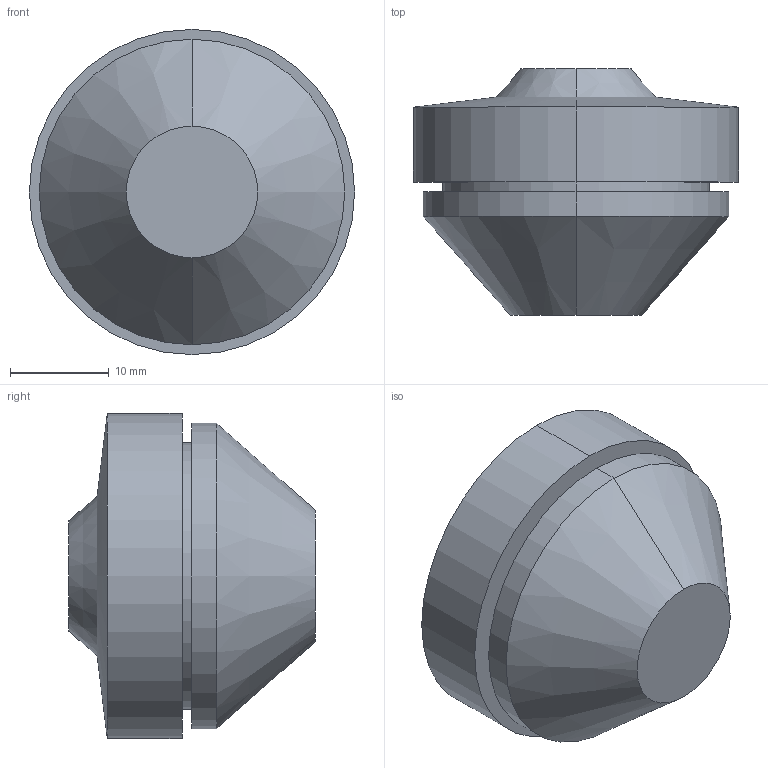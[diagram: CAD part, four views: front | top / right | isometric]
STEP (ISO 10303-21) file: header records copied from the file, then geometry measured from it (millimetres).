
FILE_DESCRIPTION (( 'STEP AP203' ), '1' );
FILE_NAME ('100732.STEP', '2012-10-29T10:24:06', ( 'Joni' ), ( 'Hewlett-Packard Company' ), 'SwSTEP 2.0', 'SolidWorks 2012', '' );
FILE_SCHEMA (( 'CONFIG_CONTROL_DESIGN' ));
Length unit declared in the file: millimetre
Products named in the file (1): 100732
Bounding box: 33 x 25 x 33 mm (x, y, z)
Volume: 13960.5 mm3; surface area: 3566.6 mm2
Topology: 1 solids, 1 shells, 16 faces, 30 edges, 18 vertices
Faces by surface type: cone 6, cylinder 6, plane 4
Entity records: 481 total; most frequent: DIRECTION 82, CARTESIAN_POINT 65, ORIENTED_EDGE 60, AXIS2_PLACEMENT_3D 35, EDGE_CURVE 30, EDGE_LOOP 18, VERTEX_POINT 18, CIRCLE 18
